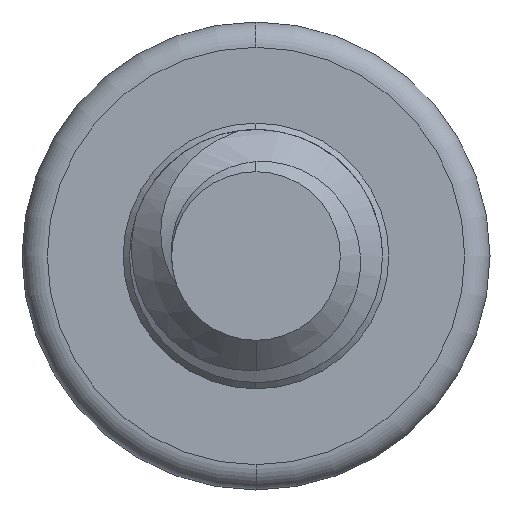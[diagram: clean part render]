
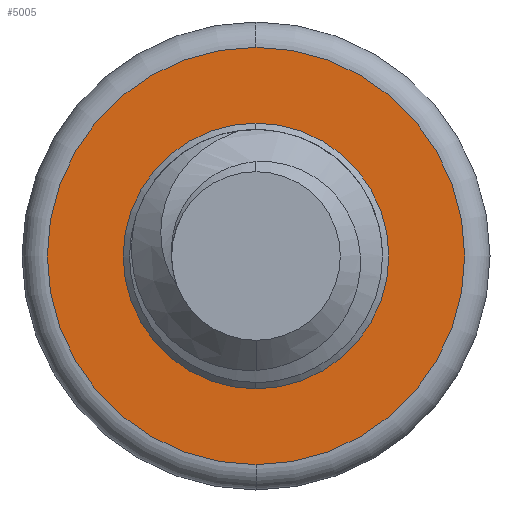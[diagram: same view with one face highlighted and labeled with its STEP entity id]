
A CAD part, left-side view. The second image highlights one B-rep face of the part: STEP entity #5005.
In plain terms, the highlighted planar face has unit normal (-1, 0, 0).
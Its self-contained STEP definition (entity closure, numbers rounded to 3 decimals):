
#130 = VERTEX_POINT ( 'NONE', #3880 ) ;
#316 = ORIENTED_EDGE ( 'NONE', *, *, #903, .F. ) ;
#422 = DIRECTION ( 'NONE',  ( -1., 0., 0. ) ) ;
#452 = CIRCLE ( 'NONE', #3225, 0.825 ) ;
#454 = EDGE_LOOP ( 'NONE', ( #3923, #316 ) ) ;
#461 = AXIS2_PLACEMENT_3D ( 'NONE', #4401, #4838, #2292 ) ;
#476 = EDGE_LOOP ( 'NONE', ( #4739, #3537 ) ) ;
#553 = CARTESIAN_POINT ( 'NONE',  ( 4., 0., -0.525 ) ) ;
#747 = EDGE_CURVE ( 'NONE', #130, #4450, #452, .T. ) ;
#806 = CARTESIAN_POINT ( 'NONE',  ( 4., 0., 0. ) ) ;
#903 = EDGE_CURVE ( 'NONE', #985, #2351, #2040, .T. ) ;
#985 = VERTEX_POINT ( 'NONE', #553 ) ;
#1093 = CARTESIAN_POINT ( 'NONE',  ( 4., 0., 0. ) ) ;
#1175 = CARTESIAN_POINT ( 'NONE',  ( 4., 0., 0. ) ) ;
#1181 = AXIS2_PLACEMENT_3D ( 'NONE', #1175, #4127, #1592 ) ;
#1226 = DIRECTION ( 'NONE',  ( 0., 0., -1. ) ) ;
#1516 = DIRECTION ( 'NONE',  ( 0., 0., -1. ) ) ;
#1527 = AXIS2_PLACEMENT_3D ( 'NONE', #2962, #422, #3393 ) ;
#1592 = DIRECTION ( 'NONE',  ( 0., 0., -1. ) ) ;
#1638 = CARTESIAN_POINT ( 'NONE',  ( 4., 0., 0.525 ) ) ;
#1937 = CARTESIAN_POINT ( 'NONE',  ( 4., 0., 0.825 ) ) ;
#2040 = CIRCLE ( 'NONE', #1181, 0.525 ) ;
#2292 = DIRECTION ( 'NONE',  ( 0., 0., -1. ) ) ;
#2351 = VERTEX_POINT ( 'NONE', #1638 ) ;
#2356 = AXIS2_PLACEMENT_3D ( 'NONE', #806, #3761, #1226 ) ;
#2962 = CARTESIAN_POINT ( 'NONE',  ( 4., 0., 0. ) ) ;
#3029 = CIRCLE ( 'NONE', #1527, 0.825 ) ;
#3225 = AXIS2_PLACEMENT_3D ( 'NONE', #1093, #4052, #1516 ) ;
#3236 = FACE_OUTER_BOUND ( 'NONE', #476, .T. ) ;
#3393 = DIRECTION ( 'NONE',  ( 0., 0., -1. ) ) ;
#3537 = ORIENTED_EDGE ( 'NONE', *, *, #4647, .T. ) ;
#3761 = DIRECTION ( 'NONE',  ( -1., 0., 0. ) ) ;
#3880 = CARTESIAN_POINT ( 'NONE',  ( 4., 0., -0.825 ) ) ;
#3923 = ORIENTED_EDGE ( 'NONE', *, *, #4684, .F. ) ;
#3949 = PLANE ( 'NONE',  #461 ) ;
#4052 = DIRECTION ( 'NONE',  ( -1., 0., 0. ) ) ;
#4127 = DIRECTION ( 'NONE',  ( -1., 0., 0. ) ) ;
#4401 = CARTESIAN_POINT ( 'NONE',  ( 4., 0., 0. ) ) ;
#4450 = VERTEX_POINT ( 'NONE', #1937 ) ;
#4647 = EDGE_CURVE ( 'NONE', #4450, #130, #3029, .T. ) ;
#4684 = EDGE_CURVE ( 'NONE', #2351, #985, #5268, .T. ) ;
#4739 = ORIENTED_EDGE ( 'NONE', *, *, #747, .T. ) ;
#4838 = DIRECTION ( 'NONE',  ( 1., 0., 0. ) ) ;
#5005 = ADVANCED_FACE ( 'NONE', ( #3236, #5331 ), #3949, .F. ) ;
#5268 = CIRCLE ( 'NONE', #2356, 0.525 ) ;
#5331 = FACE_BOUND ( 'NONE', #454, .T. ) ;
